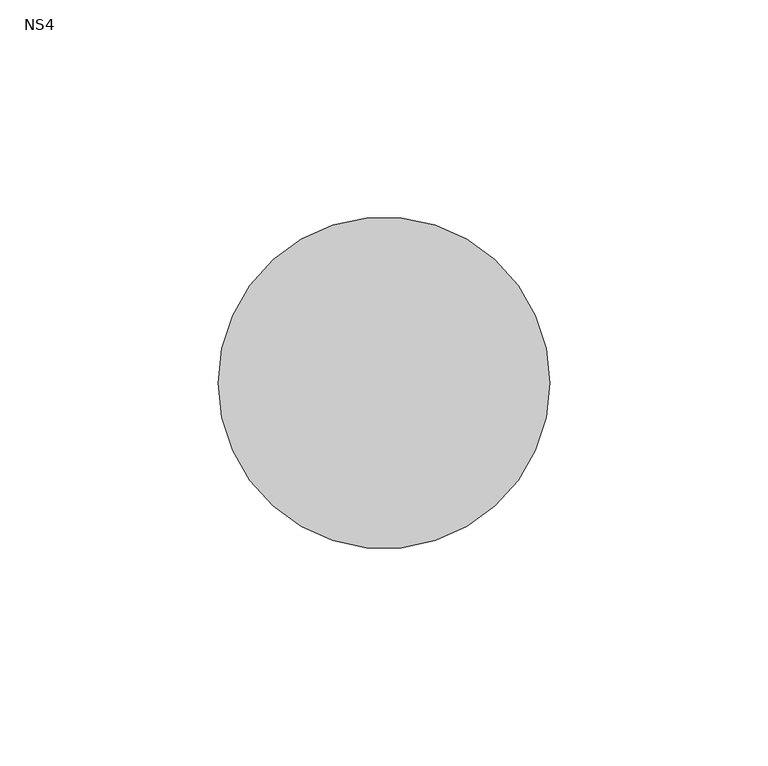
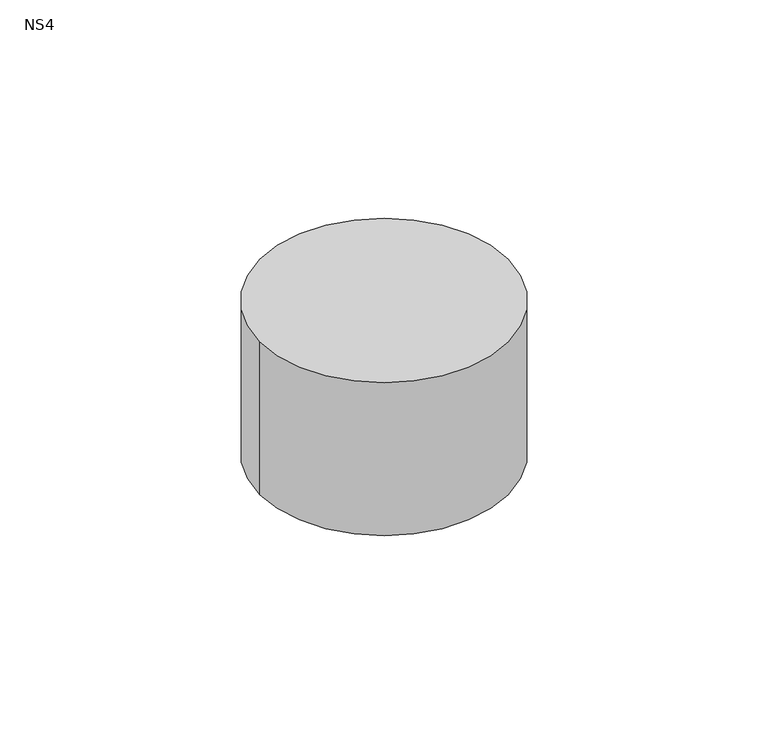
"""IFC4 building model written with IfcOpenShell, lengths in millimetres: unitary equipment geometry, ME_PE_UN_LipuJet-P-RD extension stage 1_ACO : NS4."""

from ifc_helpers import new_model, si_unit, point, frame, frame_2d, origin, place, context, project, spatial, circle_curve, trimmed, segment, composite_curve, outline, extrude, source, transform, mapped, element, save


def ns4_c199ca5a(model_context):
    return source(origin(), model_context, "Body", "SweptSolid", [
        extrude(outline(composite_curve([segment(trimmed(circle_curve(frame_2d((200.0, 345.0)), 38.0), [point((162.0, 345.0))], [point((238.0, 345.0))], False, "CARTESIAN"), True, "CONTINUOUS"), segment(trimmed(circle_curve(frame_2d((200.0, 345.0)), 38.0), [point((238.0, 345.0))], [point((162.0, 345.0))], False, "CARTESIAN"), True, "CONTINUOUS")], self_intersect=False)), frame((0.0, 0.0, 1427.5), z_axis=(0.0, 0.0, 1.0), x_axis=(1.0, 0.0, 0.0)), (0.0, 0.0, 1.0), 49.5),
    ])


if __name__ == "__main__":
    model = new_model("IFC4")
    model_context = context("Model", 3, world=origin())
    ifc_project = project(units=[si_unit("LENGTHUNIT", "METRE", prefix="MILLI")], contexts=[model_context])
    site = spatial("IfcSite", under=ifc_project)
    building = spatial("IfcBuilding", under=site)
    placement = place(None, origin())
    ns4_shape = ns4_c199ca5a(model_context)
    element("IfcUnitaryEquipment", 1, ObjectType="ME_PE_UN_LipuJet-P-RD extension stage 1_ACO : NS4", at=placement, inside=building, context=model_context, shape_type="MappedRepresentation", body=[
        mapped(ns4_shape, transform((0.0, 0.0, 0.0), x_axis=(1.0, 0.0, 0.0), y_axis=(0.0, 1.0, 0.0), z_axis=(0.0, 0.0, 1.0))),
    ])
    save(model, "model.ifc")
